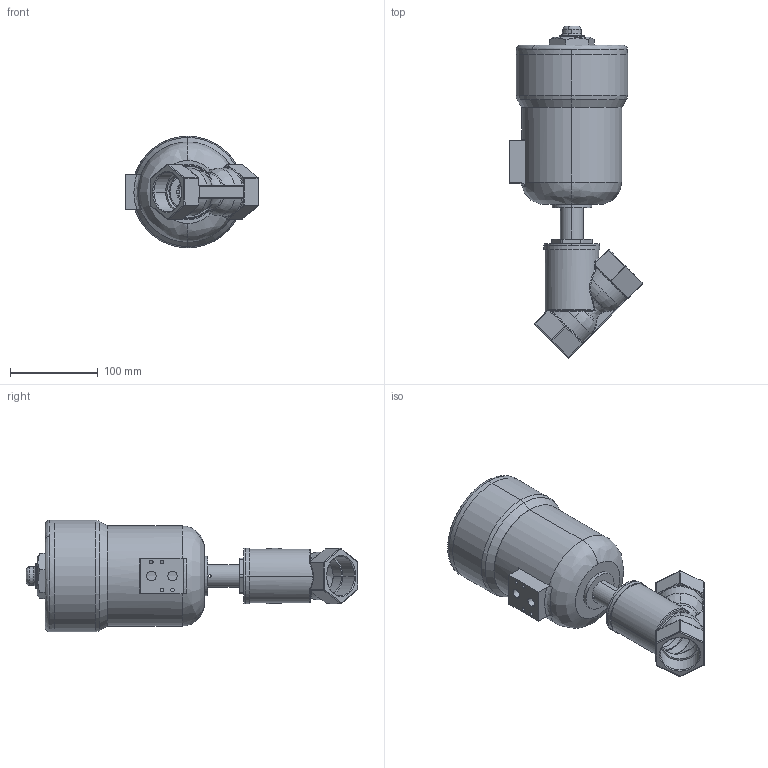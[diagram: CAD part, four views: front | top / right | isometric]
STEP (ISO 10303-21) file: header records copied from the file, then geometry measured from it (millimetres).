
FILE_DESCRIPTION (( 'STEP AP203' ), '1' );
FILE_NAME ('PCIPFM_040_3_1.STEP', '2017-07-25T16:18:20', ( 'user' ), ( '' ), 'SwSTEP 2.0', 'SolidWorks 2013', '' );
FILE_SCHEMA (( 'CONFIG_CONTROL_DESIGN' ));
Length unit declared in the file: millimetre
Products named in the file (1): PCIPFM_040_3_1
Bounding box: 151.58 x 378.08 x 127 mm (x, y, z)
Surface area: 159430 mm2 (no closed solid volume)
Topology: 0 solids, 7 shells, 382 faces, 981 edges, 579 vertices
Faces by surface type: bspline 168, cylinder 117, plane 75, cone 22
Entity records: 19877 total; most frequent: CARTESIAN_POINT 11784, ORIENTED_EDGE 1810, DIRECTION 1464, EDGE_CURVE 953, AXIS2_PLACEMENT_3D 600, VERTEX_POINT 579, EDGE_LOOP 406, CIRCLE 385
